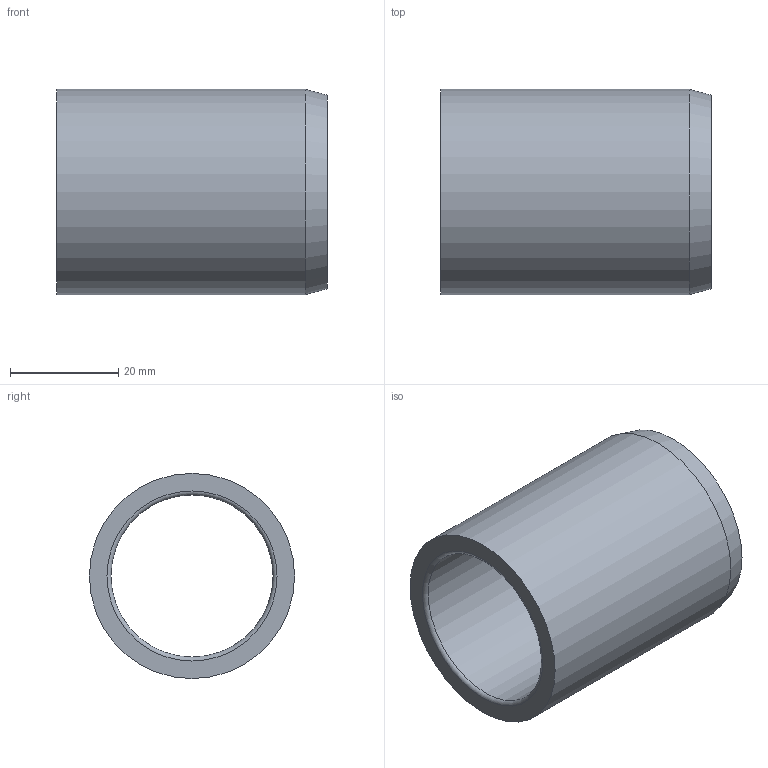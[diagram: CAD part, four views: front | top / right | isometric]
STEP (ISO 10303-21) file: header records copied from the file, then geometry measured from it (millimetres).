
FILE_DESCRIPTION(/* description */ ('Impex Ready, www.impex-ready.pl'),/* implementation_level */ '2;1');
FILE_NAME(/* name */ 'C:\Users\VIKKY\Nextcloud\SM\projekt 10 - części na stronę internetową\Pliki_3D_new\306 Tuleje BG04\306_BG04_STEP\BG04.303850.ipt.step',/* time_stamp */ '2021-12-17T16:32:25+01:00',/* author */ ('SM'),/* organization */ (''),/* preprocessor_version */ 'ST-DEVELOPER v18.1',/* originating_system */ 'Autodesk Inventor 2021',/* authorisation */ '');
FILE_SCHEMA (('AUTOMOTIVE_DESIGN { 1 0 10303 214 3 1 1 }'));
Length unit declared in the file: millimetre
Products named in the file (1): BG04.303850
Bounding box: 50 x 38 x 38 mm (x, y, z)
Volume: 21088.7 mm3; surface area: 11354.3 mm2
Topology: 1 solids, 1 shells, 7 faces, 14 edges, 9 vertices
Faces by surface type: torus 2, cylinder 2, plane 2, cone 1
Full cylindrical faces by diameter (mm): 30 x1, 38 x1
Entity records: 261 total; most frequent: DIRECTION 41, CARTESIAN_POINT 31, ORIENTED_EDGE 28, AXIS2_PLACEMENT_3D 19, EDGE_CURVE 14, CIRCLE 11, EDGE_LOOP 9, VERTEX_POINT 9
